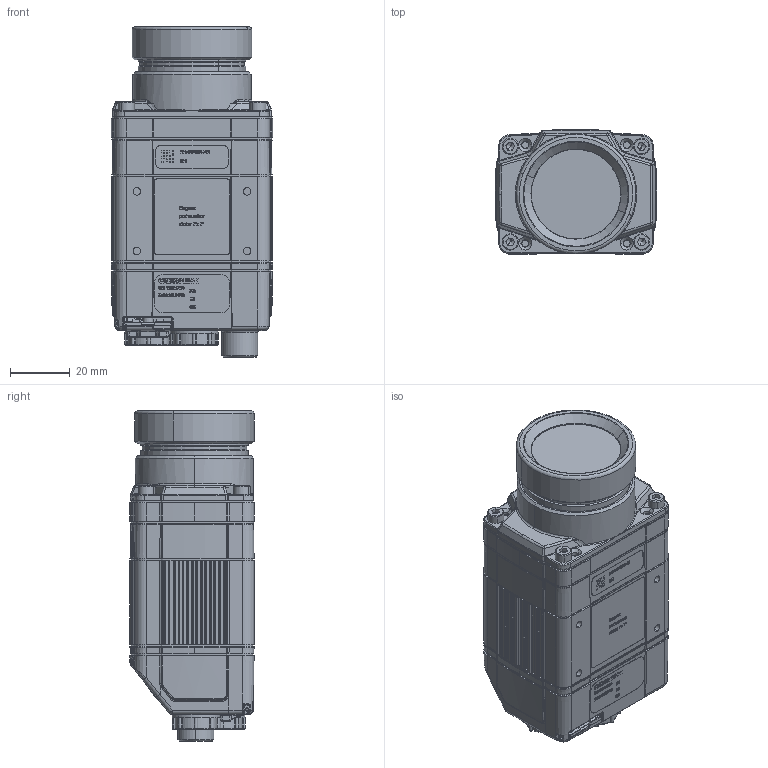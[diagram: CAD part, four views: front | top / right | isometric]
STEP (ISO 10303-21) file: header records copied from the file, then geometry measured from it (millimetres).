
FILE_DESCRIPTION (( 'STEP AP214' ), '1' );
FILE_NAME ('DM360_Mounting_Short_C-Mount_Cover.STEP', '2015-04-27T14:05:37', ( '' ), ( '' ), 'SwSTEP 2.0', 'SolidWorks 2014', '' );
FILE_SCHEMA (( 'AUTOMOTIVE_DESIGN' ));
Length unit declared in the file: millimetre
Products named in the file (2): DM360_Mounting_Short_C-Mount_Cover
Bounding box: 54 x 41.6 x 110.6 mm (x, y, z)
Surface area: 33680.3 mm2 (no closed solid volume)
Topology: 0 solids, 100 shells, 1856 faces, 7327 edges, 5541 vertices
Faces by surface type: plane 630, cylinder 542, bspline 309, torus 188, cone 176, sphere 11
Entity records: 116996 total; most frequent: CARTESIAN_POINT 39217, ORIENTED_EDGE 11615, DIRECTION 10853, EDGE_CURVE 7290, VERTEX_POINT 5541, AXIS2_PLACEMENT_3D 3789, VECTOR 3275, LINE 3275
